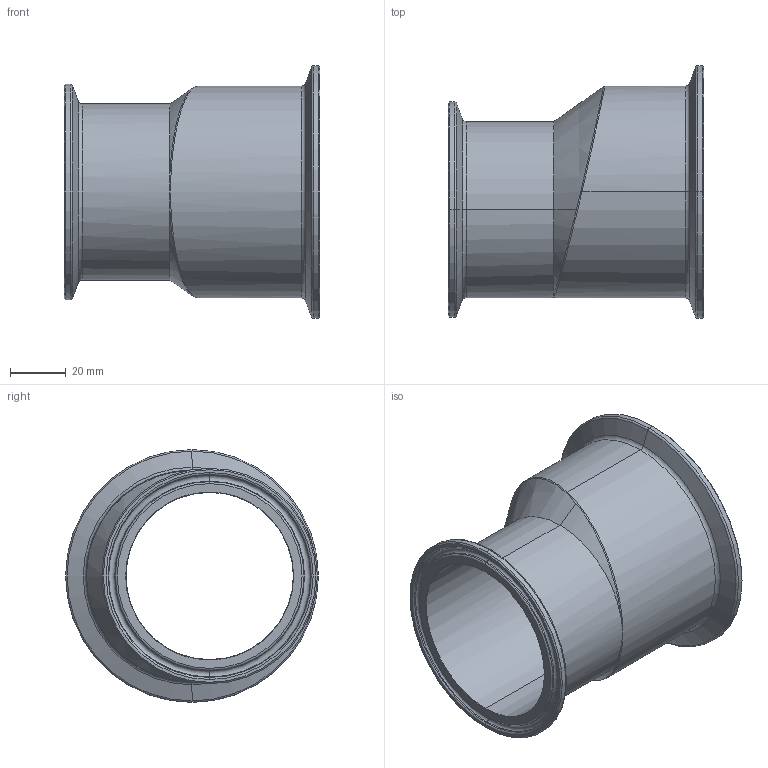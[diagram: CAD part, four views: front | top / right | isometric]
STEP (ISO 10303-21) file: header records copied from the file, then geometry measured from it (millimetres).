
FILE_DESCRIPTION (( 'STEP AP214' ), '1' );
FILE_NAME ('TEG32SCC6L3.0x2.5-...STEP', '2016-06-01T13:10:20', ( 'eran' ), ( '' ), 'SwSTEP 2.0', 'SolidWorks 2016', '' );
FILE_SCHEMA (( 'AUTOMOTIVE_DESIGN' ));
Length unit declared in the file: millimetre
Products named in the file (1): TEG32SCC6L3.0x2.5-..
Bounding box: 92.08 x 91 x 91 mm (x, y, z)
Volume: 84322.9 mm3; surface area: 46523.8 mm2
Topology: 1 solids, 1 shells, 70 faces, 150 edges, 80 vertices
Faces by surface type: torus 25, cone 24, cylinder 12, bspline 5, plane 4
Entity records: 2711 total; most frequent: CARTESIAN_POINT 1175, DIRECTION 356, ORIENTED_EDGE 292, AXIS2_PLACEMENT_3D 161, EDGE_CURVE 146, CIRCLE 95, VERTEX_POINT 80, EDGE_LOOP 74
